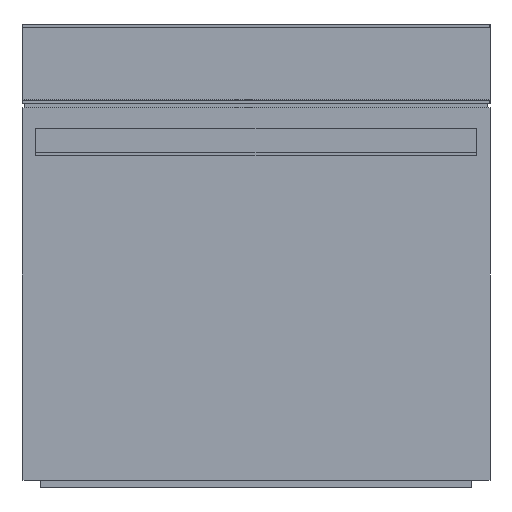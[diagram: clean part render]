
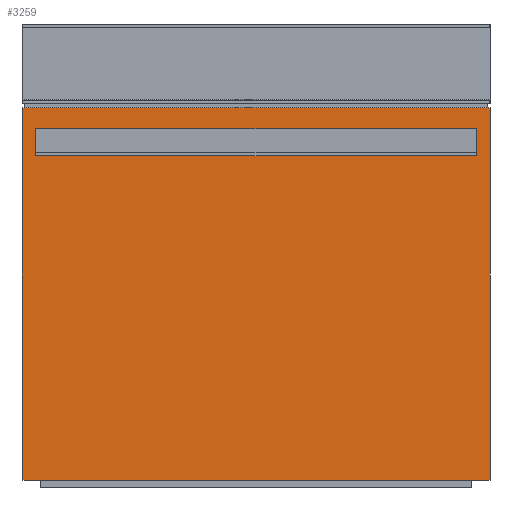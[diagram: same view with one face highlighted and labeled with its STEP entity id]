
A CAD part, front view. The second image highlights one B-rep face of the part: STEP entity #3259.
In plain terms, the highlighted planar face has unit normal (0, -1, 0).
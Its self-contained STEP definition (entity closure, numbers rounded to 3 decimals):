
#825=ORIENTED_EDGE('',*,*,#1195,.F.);
#826=ORIENTED_EDGE('',*,*,#1196,.F.);
#827=ORIENTED_EDGE('',*,*,#1197,.T.);
#828=ORIENTED_EDGE('',*,*,#1198,.T.);
#1195=EDGE_CURVE('',#1438,#1439,#1715,.T.);
#1196=EDGE_CURVE('',#1440,#1438,#1716,.T.);
#1197=EDGE_CURVE('',#1440,#1441,#1717,.T.);
#1198=EDGE_CURVE('',#1441,#1439,#1718,.T.);
#1438=VERTEX_POINT('',#5391);
#1439=VERTEX_POINT('',#5392);
#1440=VERTEX_POINT('',#5394);
#1441=VERTEX_POINT('',#5396);
#1715=LINE('',#5390,#1996);
#1716=LINE('',#5393,#1997);
#1717=LINE('',#5395,#1998);
#1718=LINE('',#5397,#1999);
#1996=VECTOR('',#4008,1000.);
#1997=VECTOR('',#4009,1000.);
#1998=VECTOR('',#4010,1000.);
#1999=VECTOR('',#4011,1000.);
#2136=EDGE_LOOP('',(#825,#826,#827,#828));
#2273=FACE_BOUND('',#2136,.T.);
#2381=PLANE('',#3428);
#3259=ADVANCED_FACE('',(#2273),#2381,.F.);
#3428=AXIS2_PLACEMENT_3D('',#5389,#4006,#4007);
#4006=DIRECTION('',(0.,1.,0.));
#4007=DIRECTION('',(0.,0.,1.));
#4008=DIRECTION('',(1.,0.,0.));
#4009=DIRECTION('',(0.,0.,1.));
#4010=DIRECTION('',(1.,0.,0.));
#4011=DIRECTION('',(0.,0.,1.));
#5389=CARTESIAN_POINT('',(301.5,-292.32,26.9));
#5390=CARTESIAN_POINT('',(301.5,-292.32,502.4));
#5391=CARTESIAN_POINT('',(301.5,-292.32,502.4));
#5392=CARTESIAN_POINT('',(898.5,-292.32,502.4));
#5393=CARTESIAN_POINT('',(301.5,-292.32,26.9));
#5394=CARTESIAN_POINT('',(301.5,-292.32,26.9));
#5395=CARTESIAN_POINT('',(301.5,-292.32,26.9));
#5396=CARTESIAN_POINT('',(898.5,-292.32,26.9));
#5397=CARTESIAN_POINT('',(898.5,-292.32,26.9));
